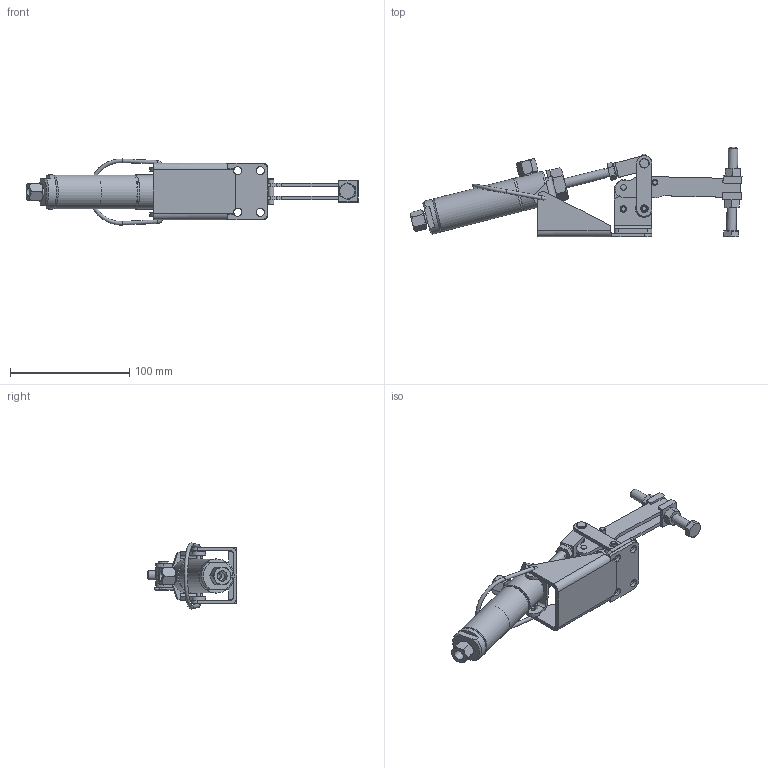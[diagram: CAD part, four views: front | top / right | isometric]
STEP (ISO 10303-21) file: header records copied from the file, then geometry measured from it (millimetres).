
FILE_DESCRIPTION(/* description */ (''),/* implementation_level */ '2;1');
FILE_NAME(/* name */ 'C:\Users\Nick\Desktop\AO-101\3D\ao-101.step',/* time_stamp */ '2016-02-19T09:49:46-05:00',/* author */ ('Nick'),/* organization */ (''),/* preprocessor_version */ 'ST-DEVELOPER v16.1',/* originating_system */ 'AutoCAD Mechanical',/* authorisation */ '');
FILE_SCHEMA (('AUTOMOTIVE_DESIGN { 1 0 10303 214 3 1 1 }'));
Length unit declared in the file: inch
Products named in the file (2): 94805A231; Product
Assembly tree (1 placements, depth 2):
  Product
    94805A231
Bounding box: 278.76 x 75.41 x 55.47 mm (x, y, z)
Volume: 119051 mm3; surface area: 83126.7 mm2
Topology: 31 solids, 31 shells, 600 faces, 1433 edges, 912 vertices
Faces by surface type: plane 250, cylinder 170, cone 112, torus 49, bspline 13, sphere 6
Full cylindrical faces by diameter (mm): 0.94 x2, 2.381 x2, 3.048 x4, 3.175 x4, 4.674 x6, 4.75 x1, 4.762 x3, 4.775 x6, 4.826 x4, 5.537 x1, 6.299 x3, 6.35 x6, 6.401 x2, 6.426 x4, 6.452 x4, 6.553 x1, 6.756 x2, 6.807 x4, 7.938 x2, 7.95 x4, 8.128 x1, 8.331 x2, 8.56 x4, 11.76 x1, 12.7 x1, 14.196 x1, 15.85 x1, 15.875 x2, 26.987 x2, 28.397 x1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
Entity records: 19849 total; most frequent: CARTESIAN_POINT 6659, DIRECTION 2729, ORIENTED_EDGE 2576, EDGE_CURVE 1288, AXIS2_PLACEMENT_3D 1142, VERTEX_POINT 888, EDGE_LOOP 832, FACE_OUTER_BOUND 600
